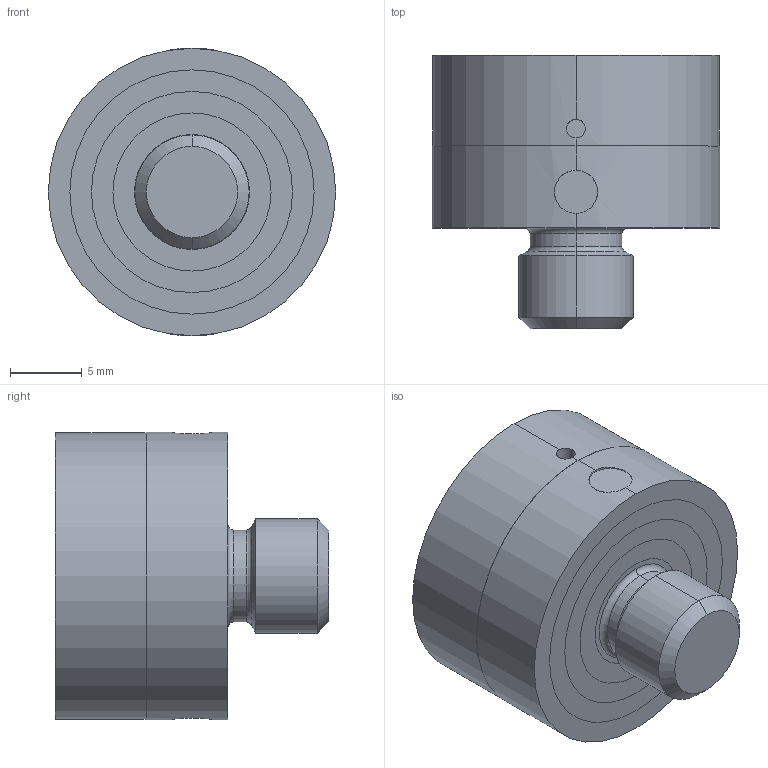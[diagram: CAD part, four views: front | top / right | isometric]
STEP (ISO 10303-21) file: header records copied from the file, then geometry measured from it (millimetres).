
FILE_DESCRIPTION (( 'STEP AP203' ), '1' );
FILE_NAME ('ISG-20.STEP', '2016-04-01T06:55:31', ( 'Balzi' ), ( '' ), 'SwSTEP 2.0', 'SolidWorks 2015', '' );
FILE_SCHEMA (( 'CONFIG_CONTROL_DESIGN' ));
Length unit declared in the file: millimetre
Products named in the file (7): ISG-ANELLO11; ISG-ANELLO14; ISG-ANELLO17; ISG-ANELLO20; spina; ISG-20; ISG-CORPO
Assembly tree (6 placements, depth 2):
  ISG-20
    ISG-CORPO
    ISG-ANELLO11
    ISG-ANELLO14
    ISG-ANELLO17
    ISG-ANELLO20
    spina
Bounding box: 20 x 19 x 20 mm (x, y, z)
Volume: 4031.4 mm3; surface area: 5613.1 mm2
Topology: 6 solids, 6 shells, 89 faces, 281 edges, 184 vertices
Faces by surface type: cylinder 62, plane 19, torus 4, cone 4
Entity records: 4896 total; most frequent: CARTESIAN_POINT 1751, ORIENTED_EDGE 562, DIRECTION 449, EDGE_CURVE 281, VERTEX_POINT 184, AXIS2_PLACEMENT_3D 178, B_SPLINE_CURVE_WITH_KNOTS 108, EDGE_LOOP 103
